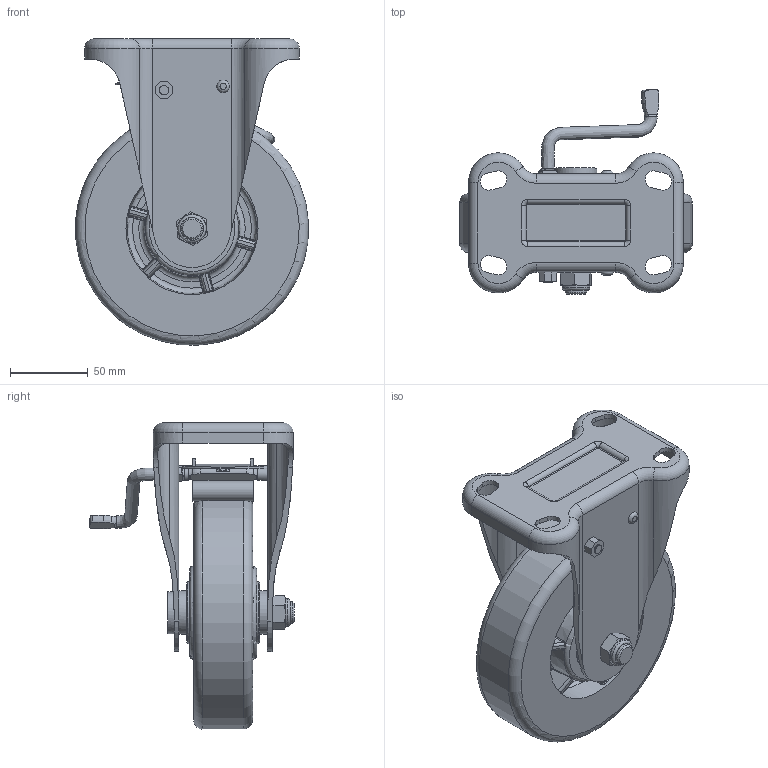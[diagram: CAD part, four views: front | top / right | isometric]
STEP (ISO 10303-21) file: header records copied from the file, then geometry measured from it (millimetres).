
FILE_DESCRIPTION(/* description */ (''),/* implementation_level */ '2;1');
FILE_NAME(/* name */ '25A31_6_F.stp',/* time_stamp */ '2022-08-27T13:40:17+08:00',/* author */ (''),/* organization */ (''),/* preprocessor_version */ 'ST-DEVELOPER v14',/* originating_system */ 'SIEMENS PLM Software NX 8.0',/* authorisation */ '');
FILE_SCHEMA (('AUTOMOTIVE_DESIGN { 1 0 10303 214 3 1 1 1 }'));
Products named in the file (1): 25A31_6_F
Bounding box: 149.77 x 131.47 x 196.88 mm (x, y, z)
Volume: 705854.2 mm3; surface area: 165631.5 mm2
Topology: 1 solids, 3 shells, 851 faces, 2115 edges, 1316 vertices
Faces by surface type: plane 337, bspline 205, cylinder 195, torus 77, cone 37
Full cylindrical faces by diameter (mm): 6 x3, 6.2 x3, 14 x2, 14.2 x1, 18 x1, 20.5 x1, 22.75 x2, 24.188 x4, 27 x1, 28 x2, 32.812 x2, 34.25 x2, 39.85 x2, 40 x2
Entity records: 43556 total; most frequent: CARTESIAN_POINT 25500, ORIENTED_EDGE 4056, DIRECTION 3263, EDGE_CURVE 2028, AXIS2_PLACEMENT_3D 1320, VERTEX_POINT 1280, EDGE_LOOP 972, ADVANCED_FACE 851
